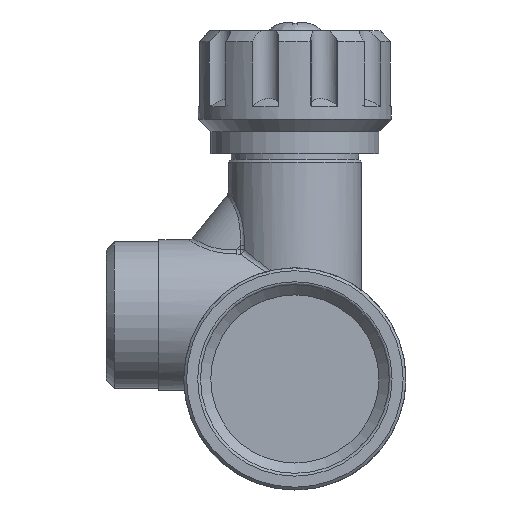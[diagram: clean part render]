
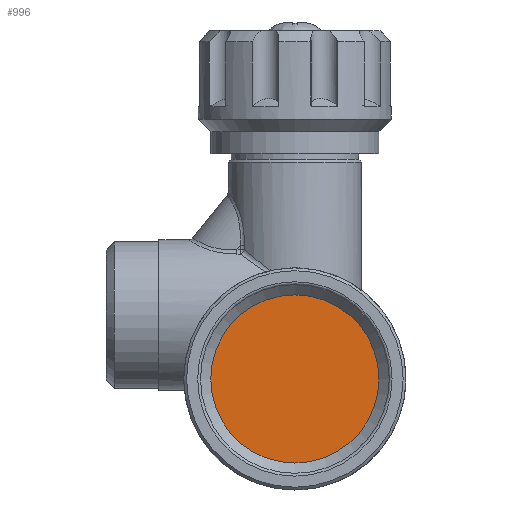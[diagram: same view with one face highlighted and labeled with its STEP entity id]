
A CAD part, front view. The second image highlights one B-rep face of the part: STEP entity #996.
In plain terms, the highlighted planar face has unit normal (0, -1, 0).
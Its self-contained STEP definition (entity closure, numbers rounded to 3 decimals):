
#996=ADVANCED_FACE('',(#14618),#14620,.T.);
#14618=FACE_BOUND('',#14619,.T.);
#14619=EDGE_LOOP('',(#23134));
#14620=PLANE('',#14621);
#14621=AXIS2_PLACEMENT_3D('',#14622,#14623,#14624);
#14622=CARTESIAN_POINT('',(0.,15.,0.));
#14623=DIRECTION('',(0.,-1.,0.));
#14624=DIRECTION('',(1.,0.,0.));
#23134=ORIENTED_EDGE('',*,*,#27130,.T.);
#27130=EDGE_CURVE('',#32113,#32113,#32114,.T.);
#32113=VERTEX_POINT('',#52934);
#32114=CIRCLE('',#52935,15.146);
#52934=CARTESIAN_POINT('',(15.146,15.,0.));
#52935=AXIS2_PLACEMENT_3D('',#52936,#52937,#52938);
#52936=CARTESIAN_POINT('',(0.,15.,0.));
#52937=DIRECTION('',(0.,-1.,0.));
#52938=DIRECTION('',(1.,0.,0.));
